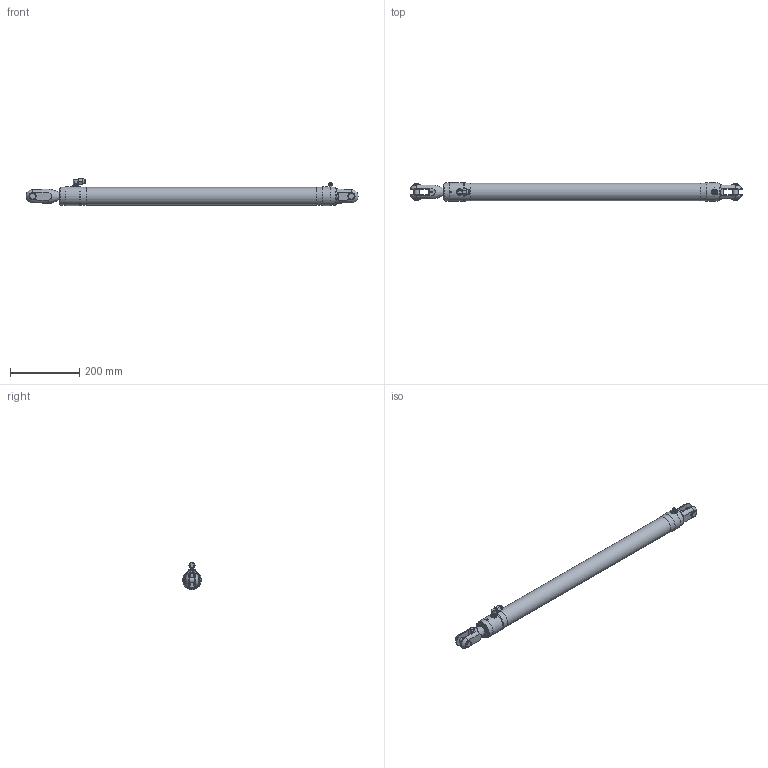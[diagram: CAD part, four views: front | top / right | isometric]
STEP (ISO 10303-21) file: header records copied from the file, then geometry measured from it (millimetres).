
FILE_DESCRIPTION(/* description */ (''),/* implementation_level */ '2;1');
FILE_NAME(/* name */ 'Q:\AA BRAND HYDRAULICS\HYDRAULICS FAMILY DIRECTORY\HYDRAULICS\CYLINDERS\RAMS\ALUMINIUM - STANDARD SINGLE ACTING (-0006 To -0260)\RSA-0012-S0625-NP-71\RSA-0012-S0625-NP-71 (Closed).stp',/* time_stamp */ '2017-11-30T09:20:28+00:00',/* author */ ('Lorena'),/* organization */ (''),/* preprocessor_version */ 'ST-DEVELOPER v16.13',/* originating_system */ 'Autodesk Inventor 2018',/* authorisation */ '');
FILE_SCHEMA (('AUTOMOTIVE_DESIGN { 1 0 10303 214 3 1 1 }'));
Length unit declared in the file: millimetre
Products named in the file (1): RSA-0012-S0625-NP-71 (Closed)
Bounding box: 957.15 x 53.8 x 78.12 mm (x, y, z)
Volume: 1783156.2 mm3; surface area: 164937 mm2
Topology: 1 solids, 4 shells, 1605 faces, 4246 edges, 2800 vertices
Faces by surface type: plane 886, bspline 572, cylinder 81, cone 57, torus 5, sphere 4
Full cylindrical faces by diameter (mm): 3.5 x1, 4 x1, 4.2 x2, 4.4 x1, 5 x2, 6 x2, 6.6 x2, 7 x1, 7.728 x1, 8.728 x1, 8.8 x2, 9 x1, 9.728 x2, 10 x2, 11.11 x1, 11.8 x2, 12 x3, 13 x1, 15.1 x2, 15.88 x2, 18 x2, 19.85 x2, 50.8 x1, 53.8 x4
Entity records: 56198 total; most frequent: CARTESIAN_POINT 19190, ORIENTED_EDGE 8236, DIRECTION 5258, EDGE_CURVE 4118, VERTEX_POINT 2762, LINE 2652, VECTOR 2652, EDGE_LOOP 1851
